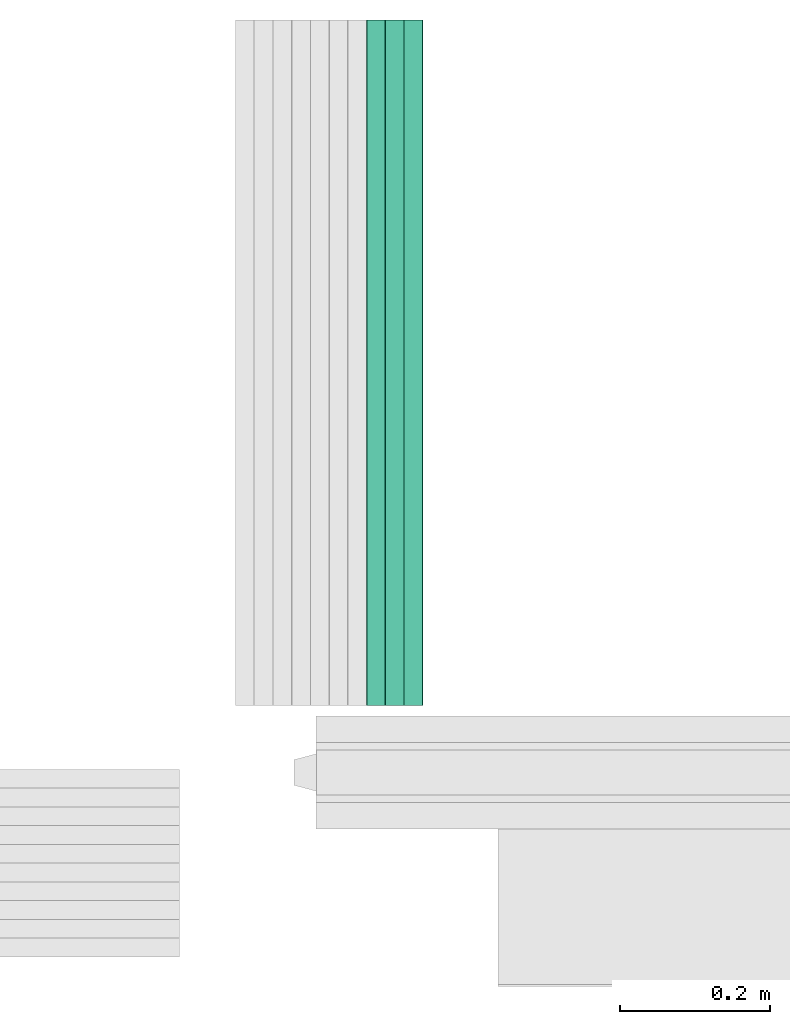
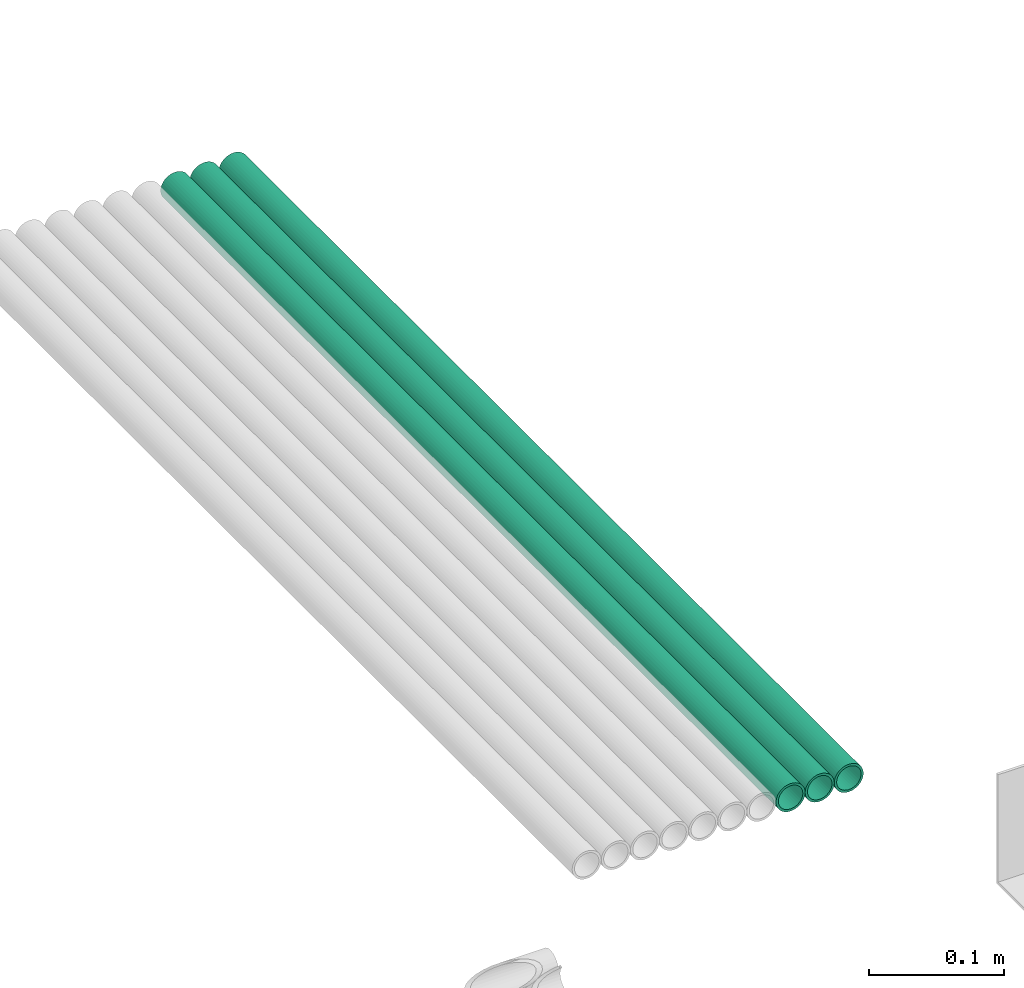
# One storey, part 10 of 14: 3 flow segments.
"""IFC2X3 building model written with IfcOpenShell, lengths in millimetres."""

from ifc_helpers import new_model, entity, si_unit, converted_unit, derived_unit, direction, frame, place, context, subcontext, project, spatial, faceted_brep, type_object, element, save


model = new_model("IFC2X3")

# Units and contexts
model_context = context("Model", 3, precision=0.01, world=frame((0.0, 4.29681676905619e-09, 0.0)), true_north=direction((4.01073788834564e-13, 1.0)))
plan_context = context("Plan", 3, precision=0.01, world=frame((0.0, 4.29681676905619e-09, 0.0)), true_north=direction((4.01073788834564e-13, 1.0)))
body_context = subcontext(model_context, "Body", "Model", "MODEL_VIEW")
ifc_project = project(units=[converted_unit("PLANEANGLEUNIT", "DEGREE", entity("IfcPositiveLengthMeasure", 0.0174532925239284), si_unit("PLANEANGLEUNIT", "RADIAN"), dimensions=[0, 0, 0, 0, 0, 0, 0]), si_unit("AREAUNIT", "SQUARE_METRE"), si_unit("LENGTHUNIT", "METRE", prefix="MILLI"), si_unit("MASSUNIT", "GRAM", prefix="KILO"), si_unit("POWERUNIT", "WATT"), si_unit("PRESSUREUNIT", "PASCAL", prefix="KILO"), si_unit("FORCEUNIT", "NEWTON", prefix="KILO"), si_unit("ELECTRICVOLTAGEUNIT", "VOLT"), si_unit("ELECTRICCURRENTUNIT", "AMPERE"), si_unit("THERMODYNAMICTEMPERATUREUNIT", "DEGREE_CELSIUS"), si_unit("TIMEUNIT", "SECOND"), si_unit("VOLUMEUNIT", "CUBIC_METRE"), derived_unit("LINEARVELOCITYUNIT", [(si_unit("LENGTHUNIT", "METRE"), 1), (si_unit("TIMEUNIT", "SECOND"), -1)]), derived_unit("VOLUMETRICFLOWRATEUNIT", [(si_unit("VOLUMEUNIT", "CUBIC_METRE"), 1), (si_unit("TIMEUNIT", "SECOND"), -1)]), derived_unit("THERMALTRANSMITTANCEUNIT", [(si_unit("POWERUNIT", "WATT"), 1), (si_unit("THERMODYNAMICTEMPERATUREUNIT", "KELVIN"), -1), (si_unit("AREAUNIT", "SQUARE_METRE"), -1)]), derived_unit("SOUNDPRESSUREUNIT", [(si_unit("PRESSUREUNIT", "PASCAL"), 1)])], contexts=[model_context, plan_context])

# Site, building, storey
site_placement = place(None, frame((0.0, -4.29681676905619e-09, 0.0), z_axis=(0.0, 0.0, 1.0), x_axis=(1.0, 0.0, 0.0)))
site = spatial("IfcSite", under=ifc_project, at=site_placement, Name="ENGM", CompositionType="ELEMENT")
building_placement = place(site_placement, frame((0.0, 4.29681676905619e-09, 0.0), z_axis=(0.0, 0.0, 1.0), x_axis=(1.0, 0.0, 0.0)))
building = spatial("IfcBuilding", under=site, at=building_placement, Name="TG", CompositionType="ELEMENT")
storey_placement = place(building_placement, frame((0.0, 0.0, 205200.0), z_axis=(0.0, 0.0, 1.0), x_axis=(1.0, 0.0, 0.0)))
storey = spatial("IfcBuildingStorey", under=building, at=storey_placement, Name="Nivå D + 1,2", CompositionType="ELEMENT", Elevation=205200.0)

# Flow segments
cable_carrier_segment_type = type_object("IfcCableCarrierSegmentType", Name="Conduit", PredefinedType="CONDUITSEGMENT")
flow_segment_1_placement = place(storey_placement, frame((332607.4875, 476415.04, 4970.0), z_axis=(0.0, 0.0, 1.0), x_axis=(0.0, -1.0, 0.0)))
element("IfcFlowSegment", 1, at=flow_segment_1_placement, inside=storey, type_object=cable_carrier_segment_type, Name="Conduit", context=body_context, shape_type="Brep", body=[
    faceted_brep([(8915.04000000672, 10.3404814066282, -1.82330586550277), (8915.04000000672, 10.5, 0.0), (9830.0, 10.5, 0.0), (9830.0, 10.3404814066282, -1.82330586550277), (8915.04000000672, 9.86677251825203, -3.59121150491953), (9830.0, 9.86677251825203, -3.59121150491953), (8915.04000000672, 9.0932667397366, -5.25), (9830.0, 9.0932667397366, -5.25), (8915.04000000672, 8.04346665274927, -6.74926990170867), (9830.0, 8.04346665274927, -6.74926990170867), (8915.04000000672, 6.74926990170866, -8.04346665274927), (9830.0, 6.74926990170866, -8.04346665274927), (8915.04000000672, 5.25, -9.09326673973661), (9830.0, 5.25, -9.09326673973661), (8915.04000000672, 3.59121150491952, -9.86677251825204), (9830.0, 3.59121150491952, -9.86677251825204), (8915.04000000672, 1.82330586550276, -10.3404814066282), (9830.0, 1.82330586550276, -10.3404814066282), (8915.04000000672, -1.92881870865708e-15, -10.5), (9830.0, -1.92881870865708e-15, -10.5), (8915.04000000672, -1.82330586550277, -10.3404814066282), (9830.0, -1.82330586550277, -10.3404814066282), (8915.04000000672, -3.59121150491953, -9.86677251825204), (9830.0, -3.59121150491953, -9.86677251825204), (8915.04000000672, -5.25, -9.0932667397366), (9830.0, -5.25, -9.0932667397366), (8915.04000000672, -6.74926990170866, -8.04346665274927), (9830.0, -6.74926990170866, -8.04346665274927), (8915.04000000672, -8.04346665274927, -6.74926990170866), (9830.0, -8.04346665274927, -6.74926990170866), (8915.04000000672, -9.09326673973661, -5.25), (9830.0, -9.09326673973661, -5.25), (8915.04000000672, -9.86677251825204, -3.59121150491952), (9830.0, -9.86677251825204, -3.59121150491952), (8915.04000000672, -10.3404814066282, -1.82330586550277), (9830.0, -10.3404814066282, -1.82330586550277), (8915.04000000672, -10.5, 1.28587913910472e-15), (9830.0, -10.5, 1.28587913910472e-15), (8915.04000000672, -10.3404814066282, 1.82330586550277), (9830.0, -10.3404814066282, 1.82330586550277), (8915.04000000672, -9.86677251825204, 3.59121150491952), (9830.0, -9.86677251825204, 3.59121150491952), (8915.04000000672, -9.09326673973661, 5.25), (9830.0, -9.09326673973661, 5.25), (8915.04000000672, -8.04346665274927, 6.74926990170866), (9830.0, -8.04346665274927, 6.74926990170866), (8915.04000000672, -6.74926990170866, 8.04346665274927), (9830.0, -6.74926990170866, 8.04346665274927), (8915.04000000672, -5.25, 9.09326673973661), (9830.0, -5.25, 9.09326673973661), (8915.04000000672, -3.59121150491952, 9.86677251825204), (9830.0, -3.59121150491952, 9.86677251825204), (8915.04000000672, -1.82330586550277, 10.3404814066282), (9830.0, -1.82330586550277, 10.3404814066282), (8915.04000000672, 6.4293956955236e-16, 10.5), (9830.0, 6.4293956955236e-16, 10.5), (8915.04000000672, 1.82330586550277, 10.3404814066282), (9830.0, 1.82330586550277, 10.3404814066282), (8915.04000000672, 3.59121150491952, 9.86677251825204), (9830.0, 3.59121150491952, 9.86677251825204), (8915.04000000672, 5.25, 9.09326673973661), (9830.0, 5.25, 9.09326673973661), (8915.04000000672, 6.74926990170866, 8.04346665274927), (9830.0, 6.74926990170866, 8.04346665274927), (8915.04000000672, 8.04346665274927, 6.74926990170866), (9830.0, 8.04346665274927, 6.74926990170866), (8915.04000000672, 9.09326673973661, 5.25), (9830.0, 9.09326673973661, 5.25), (8915.04000000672, 9.86677251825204, 3.59121150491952), (9830.0, 9.86677251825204, 3.59121150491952), (8915.04000000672, 10.3404814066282, 1.82330586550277), (9830.0, 10.3404814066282, 1.82330586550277), (8915.04000000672, 12.5, 0.0), (8915.04000000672, 12.3100969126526, -2.17060222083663), (9830.0, 12.3100969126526, -2.17060222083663), (9830.0, 12.5, 0.0), (8915.04000000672, 12.3100969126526, 2.17060222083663), (9830.0, 12.3100969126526, 2.17060222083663), (8915.04000000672, 11.7461577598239, 4.27525179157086), (9830.0, 11.7461577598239, 4.27525179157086), (8915.04000000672, 10.8253175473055, 6.25), (9830.0, 10.8253175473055, 6.25), (8915.04000000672, 9.57555553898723, 8.03484512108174), (9830.0, 9.57555553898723, 8.03484512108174), (8915.04000000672, 8.03484512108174, 9.57555553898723), (9830.0, 8.03484512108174, 9.57555553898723), (8915.04000000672, 6.25, 10.8253175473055), (9830.0, 6.25, 10.8253175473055), (8915.04000000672, 4.27525179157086, 11.7461577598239), (9830.0, 4.27525179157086, 11.7461577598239), (8915.04000000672, 2.17060222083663, 12.3100969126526), (9830.0, 2.17060222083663, 12.3100969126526), (8915.04000000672, 7.65404249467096e-16, 12.5), (9830.0, 7.65404249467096e-16, 12.5), (8915.04000000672, -2.17060222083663, 12.3100969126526), (9830.0, -2.17060222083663, 12.3100969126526), (8915.04000000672, -4.27525179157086, 11.7461577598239), (9830.0, -4.27525179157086, 11.7461577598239), (8915.04000000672, -6.25, 10.8253175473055), (9830.0, -6.25, 10.8253175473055), (8915.04000000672, -8.03484512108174, 9.57555553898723), (9830.0, -8.03484512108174, 9.57555553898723), (8915.04000000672, -9.57555553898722, 8.03484512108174), (9830.0, -9.57555553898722, 8.03484512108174), (8915.04000000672, -10.8253175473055, 6.25), (9830.0, -10.8253175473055, 6.25), (8915.04000000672, -11.7461577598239, 4.27525179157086), (9830.0, -11.7461577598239, 4.27525179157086), (8915.04000000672, -12.3100969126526, 2.17060222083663), (9830.0, -12.3100969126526, 2.17060222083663), (8915.04000000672, -12.5, 1.53080849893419e-15), (9830.0, -12.5, 1.53080849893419e-15), (8915.04000000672, -12.3100969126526, -2.17060222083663), (9830.0, -12.3100969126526, -2.17060222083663), (8915.04000000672, -11.7461577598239, -4.27525179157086), (9830.0, -11.7461577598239, -4.27525179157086), (8915.04000000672, -10.8253175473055, -6.25), (9830.0, -10.8253175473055, -6.25), (8915.04000000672, -9.57555553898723, -8.03484512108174), (9830.0, -9.57555553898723, -8.03484512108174), (8915.04000000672, -8.03484512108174, -9.57555553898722), (9830.0, -8.03484512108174, -9.57555553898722), (8915.04000000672, -6.25000000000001, -10.8253175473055), (9830.0, -6.25000000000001, -10.8253175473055), (8915.04000000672, -4.27525179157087, -11.7461577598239), (9830.0, -4.27525179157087, -11.7461577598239), (8915.04000000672, -2.17060222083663, -12.3100969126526), (9830.0, -2.17060222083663, -12.3100969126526), (8915.04000000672, -2.29621274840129e-15, -12.5), (9830.0, -2.29621274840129e-15, -12.5), (8915.04000000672, 2.17060222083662, -12.3100969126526), (9830.0, 2.17060222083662, -12.3100969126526), (8915.04000000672, 4.27525179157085, -11.7461577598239), (9830.0, 4.27525179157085, -11.7461577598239), (8915.04000000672, 6.25, -10.8253175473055), (9830.0, 6.25, -10.8253175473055), (8915.04000000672, 8.03484512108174, -9.57555553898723), (9830.0, 8.03484512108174, -9.57555553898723), (8915.04000000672, 9.57555553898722, -8.03484512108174), (9830.0, 9.57555553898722, -8.03484512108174), (8915.04000000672, 10.8253175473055, -6.25000000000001), (9830.0, 10.8253175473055, -6.25000000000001), (8915.04000000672, 11.7461577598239, -4.27525179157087), (9830.0, 11.7461577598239, -4.27525179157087)], [[[0, 1, 2, 3]], [[4, 0, 3, 5]], [[6, 4, 5, 7]], [[8, 6, 7, 9]], [[10, 8, 9, 11]], [[12, 10, 11, 13]], [[14, 12, 13, 15]], [[16, 14, 15, 17]], [[18, 16, 17, 19]], [[20, 18, 19, 21]], [[22, 20, 21, 23]], [[24, 22, 23, 25]], [[26, 24, 25, 27]], [[28, 26, 27, 29]], [[30, 28, 29, 31]], [[32, 30, 31, 33]], [[34, 32, 33, 35]], [[36, 34, 35, 37]], [[38, 36, 37, 39]], [[40, 38, 39, 41]], [[42, 40, 41, 43]], [[44, 42, 43, 45]], [[46, 44, 45, 47]], [[48, 46, 47, 49]], [[50, 48, 49, 51]], [[52, 50, 51, 53]], [[54, 52, 53, 55]], [[56, 54, 55, 57]], [[58, 56, 57, 59]], [[60, 58, 59, 61]], [[62, 60, 61, 63]], [[64, 62, 63, 65]], [[66, 64, 65, 67]], [[68, 66, 67, 69]], [[70, 68, 69, 71]], [[1, 70, 71, 2]], [[72, 73, 74, 75]], [[76, 72, 75, 77]], [[78, 76, 77, 79]], [[80, 78, 79, 81]], [[82, 80, 81, 83]], [[84, 82, 83, 85]], [[86, 84, 85, 87]], [[88, 86, 87, 89]], [[90, 88, 89, 91]], [[92, 90, 91, 93]], [[94, 92, 93, 95]], [[96, 94, 95, 97]], [[98, 96, 97, 99]], [[100, 98, 99, 101]], [[102, 100, 101, 103]], [[104, 102, 103, 105]], [[106, 104, 105, 107]], [[108, 106, 107, 109]], [[110, 108, 109, 111]], [[112, 110, 111, 113]], [[114, 112, 113, 115]], [[116, 114, 115, 117]], [[118, 116, 117, 119]], [[120, 118, 119, 121]], [[122, 120, 121, 123]], [[124, 122, 123, 125]], [[126, 124, 125, 127]], [[128, 126, 127, 129]], [[130, 128, 129, 131]], [[132, 130, 131, 133]], [[134, 132, 133, 135]], [[136, 134, 135, 137]], [[138, 136, 137, 139]], [[140, 138, 139, 141]], [[142, 140, 141, 143]], [[73, 142, 143, 74]], [[75, 74, 143, 141, 139, 137, 135, 133, 131, 129, 127, 125, 123, 121, 119, 117, 115, 113, 111, 109, 107, 105, 103, 101, 99, 97, 95, 93, 91, 89, 87, 85, 83, 81, 79, 77], [2, 71, 69, 67, 65, 63, 61, 59, 57, 55, 53, 51, 49, 47, 45, 43, 41, 39, 37, 35, 33, 31, 29, 27, 25, 23, 21, 19, 17, 15, 13, 11, 9, 7, 5, 3]], [[76, 78, 80, 82, 84, 86, 88, 90, 92, 94, 96, 98, 100, 102, 104, 106, 108, 110, 112, 114, 116, 118, 120, 122, 124, 126, 128, 130, 132, 134, 136, 138, 140, 142, 73, 72], [4, 6, 8, 10, 12, 14, 16, 18, 20, 22, 24, 26, 28, 30, 32, 34, 36, 38, 40, 42, 44, 46, 48, 50, 52, 54, 56, 58, 60, 62, 64, 66, 68, 70, 1, 0]]], orient=[[False], [False], [False], [False], [False], [False], [False], [False], [False], [False], [False], [False], [False], [False], [False], [False], [False], [False], [False], [False], [False], [False], [False], [False], [False], [False], [False], [False], [False], [False], [False], [False], [False], [False], [False], [False], [False], [False], [False], [False], [False], [False], [False], [False], [False], [False], [False], [False], [False], [False], [False], [False], [False], [False], [False], [False], [False], [False], [False], [False], [False], [False], [False], [False], [False], [False], [False], [False], [False], [False], [False], [False], [False, False], [False, False]]),
])
flow_segment_2_placement = place(storey_placement, frame((332582.4875, 476415.04, 4970.0), z_axis=(0.0, 0.0, 1.0), x_axis=(0.0, -1.0, 0.0)))
element("IfcFlowSegment", 2, at=flow_segment_2_placement, inside=storey, type_object=cable_carrier_segment_type, Name="Conduit", context=body_context, shape_type="Brep", body=[
    faceted_brep([(8915.04000000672, 10.3404814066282, -1.82330586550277), (8915.04000000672, 10.5, 0.0), (9830.0, 10.5, 0.0), (9830.0, 10.3404814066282, -1.82330586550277), (8915.04000000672, 9.86677251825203, -3.59121150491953), (9830.0, 9.86677251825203, -3.59121150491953), (8915.04000000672, 9.0932667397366, -5.25), (9830.0, 9.0932667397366, -5.25), (8915.04000000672, 8.04346665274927, -6.74926990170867), (9830.0, 8.04346665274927, -6.74926990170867), (8915.04000000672, 6.74926990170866, -8.04346665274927), (9830.0, 6.74926990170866, -8.04346665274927), (8915.04000000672, 5.25, -9.09326673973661), (9830.0, 5.25, -9.09326673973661), (8915.04000000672, 3.59121150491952, -9.86677251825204), (9830.0, 3.59121150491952, -9.86677251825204), (8915.04000000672, 1.82330586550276, -10.3404814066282), (9830.0, 1.82330586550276, -10.3404814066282), (8915.04000000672, -1.92881870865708e-15, -10.5), (9830.0, -1.92881870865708e-15, -10.5), (8915.04000000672, -1.82330586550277, -10.3404814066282), (9830.0, -1.82330586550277, -10.3404814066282), (8915.04000000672, -3.59121150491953, -9.86677251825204), (9830.0, -3.59121150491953, -9.86677251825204), (8915.04000000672, -5.25, -9.0932667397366), (9830.0, -5.25, -9.0932667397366), (8915.04000000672, -6.74926990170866, -8.04346665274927), (9830.0, -6.74926990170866, -8.04346665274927), (8915.04000000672, -8.04346665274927, -6.74926990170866), (9830.0, -8.04346665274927, -6.74926990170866), (8915.04000000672, -9.09326673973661, -5.25), (9830.0, -9.09326673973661, -5.25), (8915.04000000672, -9.86677251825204, -3.59121150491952), (9830.0, -9.86677251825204, -3.59121150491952), (8915.04000000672, -10.3404814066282, -1.82330586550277), (9830.0, -10.3404814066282, -1.82330586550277), (8915.04000000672, -10.5, 1.28587913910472e-15), (9830.0, -10.5, 1.28587913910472e-15), (8915.04000000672, -10.3404814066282, 1.82330586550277), (9830.0, -10.3404814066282, 1.82330586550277), (8915.04000000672, -9.86677251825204, 3.59121150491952), (9830.0, -9.86677251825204, 3.59121150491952), (8915.04000000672, -9.09326673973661, 5.25), (9830.0, -9.09326673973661, 5.25), (8915.04000000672, -8.04346665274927, 6.74926990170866), (9830.0, -8.04346665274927, 6.74926990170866), (8915.04000000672, -6.74926990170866, 8.04346665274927), (9830.0, -6.74926990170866, 8.04346665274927), (8915.04000000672, -5.25, 9.09326673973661), (9830.0, -5.25, 9.09326673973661), (8915.04000000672, -3.59121150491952, 9.86677251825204), (9830.0, -3.59121150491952, 9.86677251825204), (8915.04000000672, -1.82330586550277, 10.3404814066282), (9830.0, -1.82330586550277, 10.3404814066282), (8915.04000000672, 6.4293956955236e-16, 10.5), (9830.0, 6.4293956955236e-16, 10.5), (8915.04000000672, 1.82330586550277, 10.3404814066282), (9830.0, 1.82330586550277, 10.3404814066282), (8915.04000000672, 3.59121150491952, 9.86677251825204), (9830.0, 3.59121150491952, 9.86677251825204), (8915.04000000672, 5.25, 9.09326673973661), (9830.0, 5.25, 9.09326673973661), (8915.04000000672, 6.74926990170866, 8.04346665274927), (9830.0, 6.74926990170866, 8.04346665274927), (8915.04000000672, 8.04346665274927, 6.74926990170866), (9830.0, 8.04346665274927, 6.74926990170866), (8915.04000000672, 9.09326673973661, 5.25), (9830.0, 9.09326673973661, 5.25), (8915.04000000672, 9.86677251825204, 3.59121150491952), (9830.0, 9.86677251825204, 3.59121150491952), (8915.04000000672, 10.3404814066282, 1.82330586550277), (9830.0, 10.3404814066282, 1.82330586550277), (8915.04000000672, 12.5, 0.0), (8915.04000000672, 12.3100969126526, -2.17060222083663), (9830.0, 12.3100969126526, -2.17060222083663), (9830.0, 12.5, 0.0), (8915.04000000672, 12.3100969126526, 2.17060222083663), (9830.0, 12.3100969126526, 2.17060222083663), (8915.04000000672, 11.7461577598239, 4.27525179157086), (9830.0, 11.7461577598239, 4.27525179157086), (8915.04000000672, 10.8253175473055, 6.25), (9830.0, 10.8253175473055, 6.25), (8915.04000000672, 9.57555553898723, 8.03484512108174), (9830.0, 9.57555553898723, 8.03484512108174), (8915.04000000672, 8.03484512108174, 9.57555553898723), (9830.0, 8.03484512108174, 9.57555553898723), (8915.04000000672, 6.25, 10.8253175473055), (9830.0, 6.25, 10.8253175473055), (8915.04000000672, 4.27525179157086, 11.7461577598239), (9830.0, 4.27525179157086, 11.7461577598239), (8915.04000000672, 2.17060222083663, 12.3100969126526), (9830.0, 2.17060222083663, 12.3100969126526), (8915.04000000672, 7.65404249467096e-16, 12.5), (9830.0, 7.65404249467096e-16, 12.5), (8915.04000000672, -2.17060222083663, 12.3100969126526), (9830.0, -2.17060222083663, 12.3100969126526), (8915.04000000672, -4.27525179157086, 11.7461577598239), (9830.0, -4.27525179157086, 11.7461577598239), (8915.04000000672, -6.25, 10.8253175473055), (9830.0, -6.25, 10.8253175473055), (8915.04000000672, -8.03484512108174, 9.57555553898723), (9830.0, -8.03484512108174, 9.57555553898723), (8915.04000000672, -9.57555553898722, 8.03484512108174), (9830.0, -9.57555553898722, 8.03484512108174), (8915.04000000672, -10.8253175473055, 6.25), (9830.0, -10.8253175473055, 6.25), (8915.04000000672, -11.7461577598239, 4.27525179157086), (9830.0, -11.7461577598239, 4.27525179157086), (8915.04000000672, -12.3100969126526, 2.17060222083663), (9830.0, -12.3100969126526, 2.17060222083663), (8915.04000000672, -12.5, 1.53080849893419e-15), (9830.0, -12.5, 1.53080849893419e-15), (8915.04000000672, -12.3100969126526, -2.17060222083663), (9830.0, -12.3100969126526, -2.17060222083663), (8915.04000000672, -11.7461577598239, -4.27525179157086), (9830.0, -11.7461577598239, -4.27525179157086), (8915.04000000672, -10.8253175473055, -6.25), (9830.0, -10.8253175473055, -6.25), (8915.04000000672, -9.57555553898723, -8.03484512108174), (9830.0, -9.57555553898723, -8.03484512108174), (8915.04000000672, -8.03484512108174, -9.57555553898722), (9830.0, -8.03484512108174, -9.57555553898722), (8915.04000000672, -6.25000000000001, -10.8253175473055), (9830.0, -6.25000000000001, -10.8253175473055), (8915.04000000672, -4.27525179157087, -11.7461577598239), (9830.0, -4.27525179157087, -11.7461577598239), (8915.04000000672, -2.17060222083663, -12.3100969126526), (9830.0, -2.17060222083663, -12.3100969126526), (8915.04000000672, -2.29621274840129e-15, -12.5), (9830.0, -2.29621274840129e-15, -12.5), (8915.04000000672, 2.17060222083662, -12.3100969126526), (9830.0, 2.17060222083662, -12.3100969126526), (8915.04000000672, 4.27525179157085, -11.7461577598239), (9830.0, 4.27525179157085, -11.7461577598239), (8915.04000000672, 6.25, -10.8253175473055), (9830.0, 6.25, -10.8253175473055), (8915.04000000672, 8.03484512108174, -9.57555553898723), (9830.0, 8.03484512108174, -9.57555553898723), (8915.04000000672, 9.57555553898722, -8.03484512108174), (9830.0, 9.57555553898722, -8.03484512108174), (8915.04000000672, 10.8253175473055, -6.25000000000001), (9830.0, 10.8253175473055, -6.25000000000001), (8915.04000000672, 11.7461577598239, -4.27525179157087), (9830.0, 11.7461577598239, -4.27525179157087)], [[[0, 1, 2, 3]], [[4, 0, 3, 5]], [[6, 4, 5, 7]], [[8, 6, 7, 9]], [[10, 8, 9, 11]], [[12, 10, 11, 13]], [[14, 12, 13, 15]], [[16, 14, 15, 17]], [[18, 16, 17, 19]], [[20, 18, 19, 21]], [[22, 20, 21, 23]], [[24, 22, 23, 25]], [[26, 24, 25, 27]], [[28, 26, 27, 29]], [[30, 28, 29, 31]], [[32, 30, 31, 33]], [[34, 32, 33, 35]], [[36, 34, 35, 37]], [[38, 36, 37, 39]], [[40, 38, 39, 41]], [[42, 40, 41, 43]], [[44, 42, 43, 45]], [[46, 44, 45, 47]], [[48, 46, 47, 49]], [[50, 48, 49, 51]], [[52, 50, 51, 53]], [[54, 52, 53, 55]], [[56, 54, 55, 57]], [[58, 56, 57, 59]], [[60, 58, 59, 61]], [[62, 60, 61, 63]], [[64, 62, 63, 65]], [[66, 64, 65, 67]], [[68, 66, 67, 69]], [[70, 68, 69, 71]], [[1, 70, 71, 2]], [[72, 73, 74, 75]], [[76, 72, 75, 77]], [[78, 76, 77, 79]], [[80, 78, 79, 81]], [[82, 80, 81, 83]], [[84, 82, 83, 85]], [[86, 84, 85, 87]], [[88, 86, 87, 89]], [[90, 88, 89, 91]], [[92, 90, 91, 93]], [[94, 92, 93, 95]], [[96, 94, 95, 97]], [[98, 96, 97, 99]], [[100, 98, 99, 101]], [[102, 100, 101, 103]], [[104, 102, 103, 105]], [[106, 104, 105, 107]], [[108, 106, 107, 109]], [[110, 108, 109, 111]], [[112, 110, 111, 113]], [[114, 112, 113, 115]], [[116, 114, 115, 117]], [[118, 116, 117, 119]], [[120, 118, 119, 121]], [[122, 120, 121, 123]], [[124, 122, 123, 125]], [[126, 124, 125, 127]], [[128, 126, 127, 129]], [[130, 128, 129, 131]], [[132, 130, 131, 133]], [[134, 132, 133, 135]], [[136, 134, 135, 137]], [[138, 136, 137, 139]], [[140, 138, 139, 141]], [[142, 140, 141, 143]], [[73, 142, 143, 74]], [[75, 74, 143, 141, 139, 137, 135, 133, 131, 129, 127, 125, 123, 121, 119, 117, 115, 113, 111, 109, 107, 105, 103, 101, 99, 97, 95, 93, 91, 89, 87, 85, 83, 81, 79, 77], [2, 71, 69, 67, 65, 63, 61, 59, 57, 55, 53, 51, 49, 47, 45, 43, 41, 39, 37, 35, 33, 31, 29, 27, 25, 23, 21, 19, 17, 15, 13, 11, 9, 7, 5, 3]], [[76, 78, 80, 82, 84, 86, 88, 90, 92, 94, 96, 98, 100, 102, 104, 106, 108, 110, 112, 114, 116, 118, 120, 122, 124, 126, 128, 130, 132, 134, 136, 138, 140, 142, 73, 72], [4, 6, 8, 10, 12, 14, 16, 18, 20, 22, 24, 26, 28, 30, 32, 34, 36, 38, 40, 42, 44, 46, 48, 50, 52, 54, 56, 58, 60, 62, 64, 66, 68, 70, 1, 0]]], orient=[[False], [False], [False], [False], [False], [False], [False], [False], [False], [False], [False], [False], [False], [False], [False], [False], [False], [False], [False], [False], [False], [False], [False], [False], [False], [False], [False], [False], [False], [False], [False], [False], [False], [False], [False], [False], [False], [False], [False], [False], [False], [False], [False], [False], [False], [False], [False], [False], [False], [False], [False], [False], [False], [False], [False], [False], [False], [False], [False], [False], [False], [False], [False], [False], [False], [False], [False], [False], [False], [False], [False], [False], [False, False], [False, False]]),
])
flow_segment_3_placement = place(storey_placement, frame((332557.4875, 476415.04, 4970.0), z_axis=(0.0, 0.0, 1.0), x_axis=(0.0, -1.0, 0.0)))
element("IfcFlowSegment", 3, at=flow_segment_3_placement, inside=storey, type_object=cable_carrier_segment_type, Name="Conduit", context=body_context, shape_type="Brep", body=[
    faceted_brep([(8915.04000000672, 10.3404814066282, -1.82330586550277), (8915.04000000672, 10.5, 0.0), (9830.0, 10.5, 0.0), (9830.0, 10.3404814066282, -1.82330586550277), (8915.04000000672, 9.86677251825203, -3.59121150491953), (9830.0, 9.86677251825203, -3.59121150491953), (8915.04000000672, 9.0932667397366, -5.25), (9830.0, 9.0932667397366, -5.25), (8915.04000000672, 8.04346665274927, -6.74926990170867), (9830.0, 8.04346665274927, -6.74926990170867), (8915.04000000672, 6.74926990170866, -8.04346665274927), (9830.0, 6.74926990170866, -8.04346665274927), (8915.04000000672, 5.25, -9.09326673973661), (9830.0, 5.25, -9.09326673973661), (8915.04000000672, 3.59121150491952, -9.86677251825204), (9830.0, 3.59121150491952, -9.86677251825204), (8915.04000000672, 1.82330586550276, -10.3404814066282), (9830.0, 1.82330586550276, -10.3404814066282), (8915.04000000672, -1.92881870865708e-15, -10.5), (9830.0, -1.92881870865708e-15, -10.5), (8915.04000000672, -1.82330586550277, -10.3404814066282), (9830.0, -1.82330586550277, -10.3404814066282), (8915.04000000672, -3.59121150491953, -9.86677251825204), (9830.0, -3.59121150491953, -9.86677251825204), (8915.04000000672, -5.25, -9.0932667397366), (9830.0, -5.25, -9.0932667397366), (8915.04000000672, -6.74926990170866, -8.04346665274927), (9830.0, -6.74926990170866, -8.04346665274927), (8915.04000000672, -8.04346665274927, -6.74926990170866), (9830.0, -8.04346665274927, -6.74926990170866), (8915.04000000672, -9.09326673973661, -5.25), (9830.0, -9.09326673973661, -5.25), (8915.04000000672, -9.86677251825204, -3.59121150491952), (9830.0, -9.86677251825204, -3.59121150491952), (8915.04000000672, -10.3404814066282, -1.82330586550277), (9830.0, -10.3404814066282, -1.82330586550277), (8915.04000000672, -10.5, 1.28587913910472e-15), (9830.0, -10.5, 1.28587913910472e-15), (8915.04000000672, -10.3404814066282, 1.82330586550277), (9830.0, -10.3404814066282, 1.82330586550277), (8915.04000000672, -9.86677251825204, 3.59121150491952), (9830.0, -9.86677251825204, 3.59121150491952), (8915.04000000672, -9.09326673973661, 5.25), (9830.0, -9.09326673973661, 5.25), (8915.04000000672, -8.04346665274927, 6.74926990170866), (9830.0, -8.04346665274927, 6.74926990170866), (8915.04000000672, -6.74926990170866, 8.04346665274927), (9830.0, -6.74926990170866, 8.04346665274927), (8915.04000000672, -5.25, 9.09326673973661), (9830.0, -5.25, 9.09326673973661), (8915.04000000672, -3.59121150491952, 9.86677251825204), (9830.0, -3.59121150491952, 9.86677251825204), (8915.04000000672, -1.82330586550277, 10.3404814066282), (9830.0, -1.82330586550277, 10.3404814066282), (8915.04000000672, 6.4293956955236e-16, 10.5), (9830.0, 6.4293956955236e-16, 10.5), (8915.04000000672, 1.82330586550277, 10.3404814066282), (9830.0, 1.82330586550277, 10.3404814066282), (8915.04000000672, 3.59121150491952, 9.86677251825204), (9830.0, 3.59121150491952, 9.86677251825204), (8915.04000000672, 5.25, 9.09326673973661), (9830.0, 5.25, 9.09326673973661), (8915.04000000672, 6.74926990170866, 8.04346665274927), (9830.0, 6.74926990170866, 8.04346665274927), (8915.04000000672, 8.04346665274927, 6.74926990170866), (9830.0, 8.04346665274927, 6.74926990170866), (8915.04000000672, 9.09326673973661, 5.25), (9830.0, 9.09326673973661, 5.25), (8915.04000000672, 9.86677251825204, 3.59121150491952), (9830.0, 9.86677251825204, 3.59121150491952), (8915.04000000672, 10.3404814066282, 1.82330586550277), (9830.0, 10.3404814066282, 1.82330586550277), (8915.04000000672, 12.5, 0.0), (8915.04000000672, 12.3100969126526, -2.17060222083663), (9830.0, 12.3100969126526, -2.17060222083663), (9830.0, 12.5, 0.0), (8915.04000000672, 12.3100969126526, 2.17060222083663), (9830.0, 12.3100969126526, 2.17060222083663), (8915.04000000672, 11.7461577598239, 4.27525179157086), (9830.0, 11.7461577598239, 4.27525179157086), (8915.04000000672, 10.8253175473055, 6.25), (9830.0, 10.8253175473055, 6.25), (8915.04000000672, 9.57555553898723, 8.03484512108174), (9830.0, 9.57555553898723, 8.03484512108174), (8915.04000000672, 8.03484512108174, 9.57555553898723), (9830.0, 8.03484512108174, 9.57555553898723), (8915.04000000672, 6.25, 10.8253175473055), (9830.0, 6.25, 10.8253175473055), (8915.04000000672, 4.27525179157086, 11.7461577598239), (9830.0, 4.27525179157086, 11.7461577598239), (8915.04000000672, 2.17060222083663, 12.3100969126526), (9830.0, 2.17060222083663, 12.3100969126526), (8915.04000000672, 7.65404249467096e-16, 12.5), (9830.0, 7.65404249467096e-16, 12.5), (8915.04000000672, -2.17060222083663, 12.3100969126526), (9830.0, -2.17060222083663, 12.3100969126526), (8915.04000000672, -4.27525179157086, 11.7461577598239), (9830.0, -4.27525179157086, 11.7461577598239), (8915.04000000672, -6.25, 10.8253175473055), (9830.0, -6.25, 10.8253175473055), (8915.04000000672, -8.03484512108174, 9.57555553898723), (9830.0, -8.03484512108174, 9.57555553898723), (8915.04000000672, -9.57555553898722, 8.03484512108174), (9830.0, -9.57555553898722, 8.03484512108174), (8915.04000000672, -10.8253175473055, 6.25), (9830.0, -10.8253175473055, 6.25), (8915.04000000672, -11.7461577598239, 4.27525179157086), (9830.0, -11.7461577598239, 4.27525179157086), (8915.04000000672, -12.3100969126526, 2.17060222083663), (9830.0, -12.3100969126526, 2.17060222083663), (8915.04000000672, -12.5, 1.53080849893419e-15), (9830.0, -12.5, 1.53080849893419e-15), (8915.04000000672, -12.3100969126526, -2.17060222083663), (9830.0, -12.3100969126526, -2.17060222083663), (8915.04000000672, -11.7461577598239, -4.27525179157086), (9830.0, -11.7461577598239, -4.27525179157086), (8915.04000000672, -10.8253175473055, -6.25), (9830.0, -10.8253175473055, -6.25), (8915.04000000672, -9.57555553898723, -8.03484512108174), (9830.0, -9.57555553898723, -8.03484512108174), (8915.04000000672, -8.03484512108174, -9.57555553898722), (9830.0, -8.03484512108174, -9.57555553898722), (8915.04000000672, -6.25000000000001, -10.8253175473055), (9830.0, -6.25000000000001, -10.8253175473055), (8915.04000000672, -4.27525179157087, -11.7461577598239), (9830.0, -4.27525179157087, -11.7461577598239), (8915.04000000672, -2.17060222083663, -12.3100969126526), (9830.0, -2.17060222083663, -12.3100969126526), (8915.04000000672, -2.29621274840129e-15, -12.5), (9830.0, -2.29621274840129e-15, -12.5), (8915.04000000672, 2.17060222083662, -12.3100969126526), (9830.0, 2.17060222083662, -12.3100969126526), (8915.04000000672, 4.27525179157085, -11.7461577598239), (9830.0, 4.27525179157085, -11.7461577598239), (8915.04000000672, 6.25, -10.8253175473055), (9830.0, 6.25, -10.8253175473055), (8915.04000000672, 8.03484512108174, -9.57555553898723), (9830.0, 8.03484512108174, -9.57555553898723), (8915.04000000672, 9.57555553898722, -8.03484512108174), (9830.0, 9.57555553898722, -8.03484512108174), (8915.04000000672, 10.8253175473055, -6.25000000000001), (9830.0, 10.8253175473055, -6.25000000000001), (8915.04000000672, 11.7461577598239, -4.27525179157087), (9830.0, 11.7461577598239, -4.27525179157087)], [[[0, 1, 2, 3]], [[4, 0, 3, 5]], [[6, 4, 5, 7]], [[8, 6, 7, 9]], [[10, 8, 9, 11]], [[12, 10, 11, 13]], [[14, 12, 13, 15]], [[16, 14, 15, 17]], [[18, 16, 17, 19]], [[20, 18, 19, 21]], [[22, 20, 21, 23]], [[24, 22, 23, 25]], [[26, 24, 25, 27]], [[28, 26, 27, 29]], [[30, 28, 29, 31]], [[32, 30, 31, 33]], [[34, 32, 33, 35]], [[36, 34, 35, 37]], [[38, 36, 37, 39]], [[40, 38, 39, 41]], [[42, 40, 41, 43]], [[44, 42, 43, 45]], [[46, 44, 45, 47]], [[48, 46, 47, 49]], [[50, 48, 49, 51]], [[52, 50, 51, 53]], [[54, 52, 53, 55]], [[56, 54, 55, 57]], [[58, 56, 57, 59]], [[60, 58, 59, 61]], [[62, 60, 61, 63]], [[64, 62, 63, 65]], [[66, 64, 65, 67]], [[68, 66, 67, 69]], [[70, 68, 69, 71]], [[1, 70, 71, 2]], [[72, 73, 74, 75]], [[76, 72, 75, 77]], [[78, 76, 77, 79]], [[80, 78, 79, 81]], [[82, 80, 81, 83]], [[84, 82, 83, 85]], [[86, 84, 85, 87]], [[88, 86, 87, 89]], [[90, 88, 89, 91]], [[92, 90, 91, 93]], [[94, 92, 93, 95]], [[96, 94, 95, 97]], [[98, 96, 97, 99]], [[100, 98, 99, 101]], [[102, 100, 101, 103]], [[104, 102, 103, 105]], [[106, 104, 105, 107]], [[108, 106, 107, 109]], [[110, 108, 109, 111]], [[112, 110, 111, 113]], [[114, 112, 113, 115]], [[116, 114, 115, 117]], [[118, 116, 117, 119]], [[120, 118, 119, 121]], [[122, 120, 121, 123]], [[124, 122, 123, 125]], [[126, 124, 125, 127]], [[128, 126, 127, 129]], [[130, 128, 129, 131]], [[132, 130, 131, 133]], [[134, 132, 133, 135]], [[136, 134, 135, 137]], [[138, 136, 137, 139]], [[140, 138, 139, 141]], [[142, 140, 141, 143]], [[73, 142, 143, 74]], [[75, 74, 143, 141, 139, 137, 135, 133, 131, 129, 127, 125, 123, 121, 119, 117, 115, 113, 111, 109, 107, 105, 103, 101, 99, 97, 95, 93, 91, 89, 87, 85, 83, 81, 79, 77], [2, 71, 69, 67, 65, 63, 61, 59, 57, 55, 53, 51, 49, 47, 45, 43, 41, 39, 37, 35, 33, 31, 29, 27, 25, 23, 21, 19, 17, 15, 13, 11, 9, 7, 5, 3]], [[76, 78, 80, 82, 84, 86, 88, 90, 92, 94, 96, 98, 100, 102, 104, 106, 108, 110, 112, 114, 116, 118, 120, 122, 124, 126, 128, 130, 132, 134, 136, 138, 140, 142, 73, 72], [4, 6, 8, 10, 12, 14, 16, 18, 20, 22, 24, 26, 28, 30, 32, 34, 36, 38, 40, 42, 44, 46, 48, 50, 52, 54, 56, 58, 60, 62, 64, 66, 68, 70, 1, 0]]], orient=[[False], [False], [False], [False], [False], [False], [False], [False], [False], [False], [False], [False], [False], [False], [False], [False], [False], [False], [False], [False], [False], [False], [False], [False], [False], [False], [False], [False], [False], [False], [False], [False], [False], [False], [False], [False], [False], [False], [False], [False], [False], [False], [False], [False], [False], [False], [False], [False], [False], [False], [False], [False], [False], [False], [False], [False], [False], [False], [False], [False], [False], [False], [False], [False], [False], [False], [False], [False], [False], [False], [False], [False], [False, False], [False, False]]),
])

save(model, "model.ifc")
